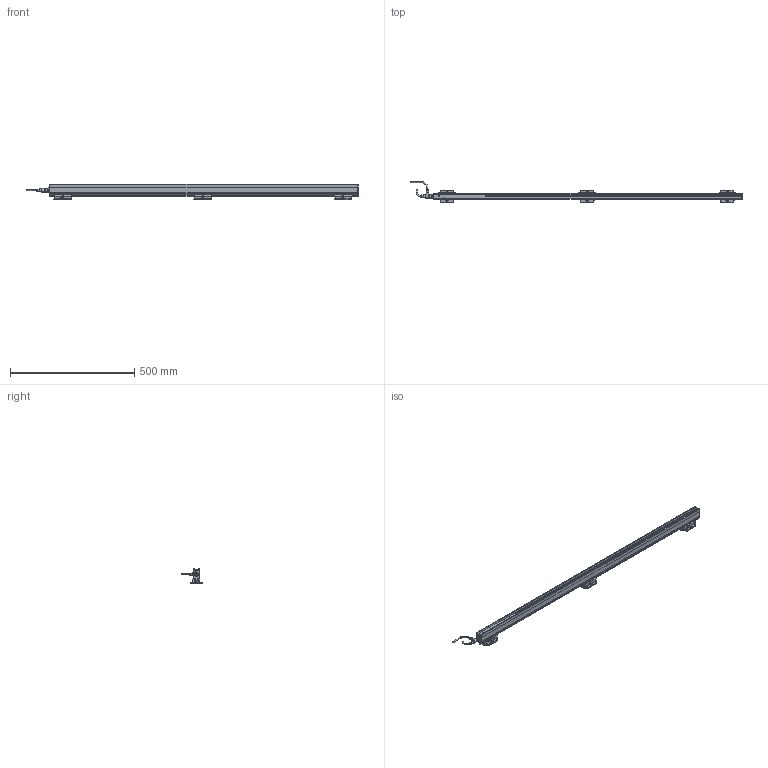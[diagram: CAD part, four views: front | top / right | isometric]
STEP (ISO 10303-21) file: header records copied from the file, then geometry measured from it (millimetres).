
FILE_DESCRIPTION(('Bauteilbeschreibung','HiCAD-Model','HiCAD-STEP-TRANSLATION','Bauteilbeschreibung'),'2;1');
FILE_NAME('PERFORMAXIQEASY_1170-1260_3D.STP','2014-03-05T11:40:17+00:00',('Konstrukteur'),('Konstrukteur Firma GmbH'),' HiCAD 2011, Step 1600.0 ','HiCAD 2011','confidential');
FILE_SCHEMA(('AUTOMOTIVE_DESIGN { 1 2 10303 214 0 1 1 1 }'));
Products named in the file (43): PERFORMAXIQEASY_1170_1260_3D; A_PERFORMAX IQ EASY 1170_1260; A_PERFORMAX IQ EASY SPEED; A_CAP DE; A_CAP CE_5; GROUP; PIN; GROUP0; PIN0; LED_2C_3MM; LED02C03MM; A519020315_CONNECTOR APPLIANCE; A_INSERT; A_CONTACTS; A_HOUSING; A_PROFILE; A_POTTING; A532000100_BRACKET BARS_ MOUNT; A_SIDE PIECE; A0SIDE0PIECE; A_BRACKET SMALL; A_SLIDE PIECE; A5320001000BRACKET0BARS00MOUNT; A0SIDE0PIECE0; A0SIDE0PIECE1; A0BRACKET0SMALL; A0SLIDE0PIECE; A5320001000BRACKET0BARS00MOUNT0; A0SIDE0PIECE2; A0SIDE0PIECE3; A0BRACKET0SMALL0; A0SLIDE0PIECE0; A_CONNECTOR STRAIGHT; EXTRUDED SOLID_0; DRAAD GEBOGEN; REVOLVED SOLID_1; REVOLVED SOLID_3; A_CONNECTOR ANGLED; REVOLVED0SOLID01; EXTRUDED0SOLID00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
Assembly tree (42 placements, depth 5):
  PERFORMAXIQEASY_1170_1260_3D
    A_PERFORMAX IQ EASY 1170_1260
      A_PERFORMAX IQ EASY SPEED
        A_CAP DE
        A_CAP CE_5
        GROUP
          PIN
        GROUP0
          PIN0
        LED_2C_3MM
        LED02C03MM
        A519020315_CONNECTOR APPLIANCE
          A_INSERT
          A_CONTACTS
          A_HOUSING
        A_PROFILE
        A_POTTING
      A532000100_BRACKET BARS_ MOUNT
        A_SIDE PIECE
        A0SIDE0PIECE
        A_BRACKET SMALL
        A_SLIDE PIECE
      A5320001000BRACKET0BARS00MOUNT
        A0SIDE0PIECE0
        A0SIDE0PIECE1
        A0BRACKET0SMALL
        A0SLIDE0PIECE
      A5320001000BRACKET0BARS00MOUNT0
        A0SIDE0PIECE2
        A0SIDE0PIECE3
        A0BRACKET0SMALL0
        A0SLIDE0PIECE0
      A_CONNECTOR STRAIGHT
        EXTRUDED SOLID_0
        DRAAD GEBOGEN
        REVOLVED SOLID_1
        REVOLVED SOLID_3
      A_CONNECTOR ANGLED
        REVOLVED0SOLID01
        EXTRUDED0SOLID00
        C_EDGE SWEEP_0
        REVOLVED SOLID_2
        REVOLVED0SOLID03
Bounding box: 1337.89 x 84.27 x 63.13 mm (x, y, z)
Volume: 1325330.4 mm3; surface area: 346957.1 mm2
Topology: 37 solids, 37 shells, 2679 faces, 6859 edges, 4095 vertices
Faces by surface type: cylinder 1117, plane 1033, sphere 167, torus 158, bspline 128, cone 76
Full cylindrical faces by diameter (mm): 0.8 x10, 1 x5, 2.387 x6, 3 x15, 3.1 x1, 4.2 x2, 5 x4, 5.5 x15, 8 x2, 8.2 x1, 8.4 x2, 8.945 x1, 9 x2, 10.2 x1, 10.5 x3, 11 x1, 12 x3, 12.8 x1, 13.8 x4, 14.5 x3
Entity records: 123325 total; most frequent: CARTESIAN_POINT 28458, DIRECTION 13337, ORIENTED_EDGE 12962, EDGE_CURVE 6481, COLOUR_RGB 6168, PRESENTATION_STYLE_ASSIGNMENT 6168, OVER_RIDING_STYLED_ITEM 6136, CURVE_STYLE 6131
